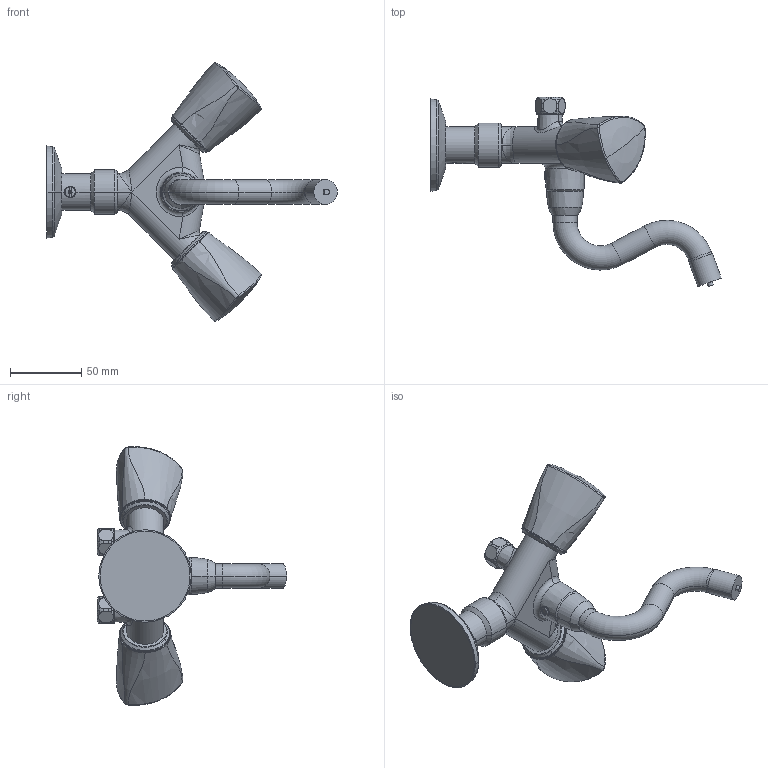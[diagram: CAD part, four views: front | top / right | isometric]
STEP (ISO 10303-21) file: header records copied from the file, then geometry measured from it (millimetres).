
FILE_DESCRIPTION((''),'2;1');
FILE_NAME('K_11_44_22_000A98','2012-01-03T',('hpf'),(''),'PRO/ENGINEER BY PARAMETRIC TECHNOLOGY CORPORATION, 2011080','PRO/ENGINEER BY PARAMETRIC TECHNOLOGY CORPORATION, 2011080','');
FILE_SCHEMA(('AUTOMOTIVE_DESIGN_CC2 { 1 2 10303 214 -1 1 5 2 }'));
Length unit declared in the file: millimetre
Products named in the file (1): K_11_44_22_000A98
Bounding box: 204.45 x 133.14 x 181.91 mm (x, y, z)
Volume: 341824.9 mm3; surface area: 51837.1 mm2
Topology: 1 solids, 1 shells, 291 faces, 693 edges, 413 vertices
Faces by surface type: torus 83, bspline 63, plane 58, cylinder 53, cone 24, sphere 10
Entity records: 18024 total; most frequent: CARTESIAN_POINT 9468, ORIENTED_EDGE 1370, DIRECTION 1236, EDGE_CURVE 685, AXIS2_PLACEMENT_3D 550, VERTEX_POINT 413, FILL_AREA_STYLE_COLOUR 345, FILL_AREA_STYLE 345
